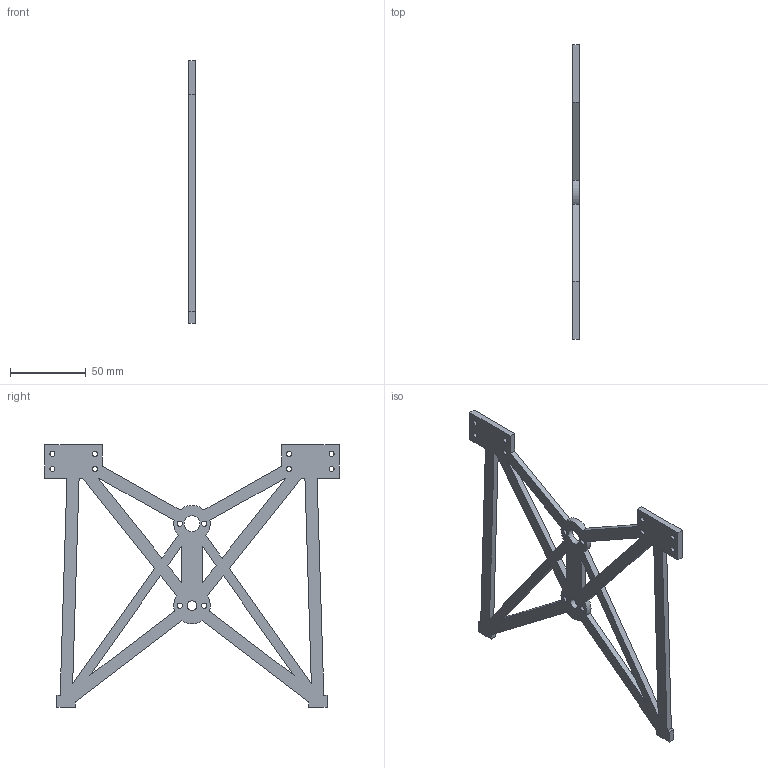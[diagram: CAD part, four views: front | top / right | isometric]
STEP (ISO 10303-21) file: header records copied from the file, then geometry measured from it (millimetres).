
FILE_DESCRIPTION(('Open CASCADE Model'),'2;1');
FILE_NAME('Open CASCADE Shape Model','2026-09-12T16:48:05',('Author'),( 'Open CASCADE'),'Open CASCADE STEP processor 7.9','Open CASCADE 7.9' ,'Unknown');
FILE_SCHEMA(('AUTOMOTIVE_DESIGN { 1 0 10303 214 1 1 1 1 }'));
Length unit declared in the file: millimetre
Products named in the file (1): Open CASCADE STEP translator 7.9 9
Bounding box: 4 x 194 x 173 mm (x, y, z)
Volume: 41420.5 mm3; surface area: 30325.2 mm2
Topology: 1 solids, 1 shells, 72 faces, 210 edges, 140 vertices
Faces by surface type: plane 52, cylinder 20
Full cylindrical faces by diameter (mm): 3.3 x8, 3.4 x4, 6.4 x1, 10.4 x1
Entity records: 5162 total; most frequent: CARTESIAN_POINT 991, DIRECTION 728, LINE 474, VECTOR 474, ORIENTED_EDGE 420, PCURVE 420, DEFINITIONAL_REPRESENTATION 420, EDGE_CURVE 210
